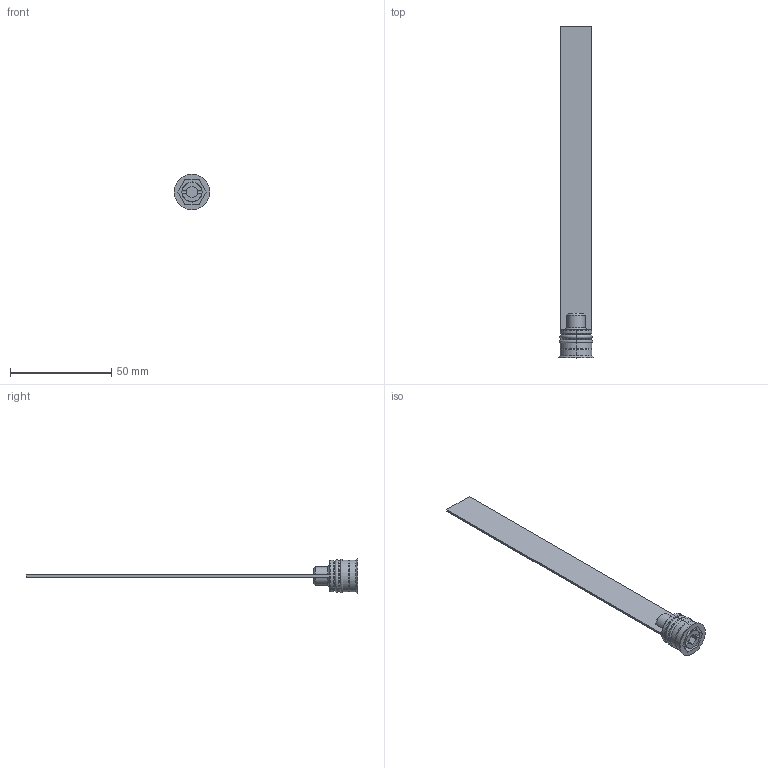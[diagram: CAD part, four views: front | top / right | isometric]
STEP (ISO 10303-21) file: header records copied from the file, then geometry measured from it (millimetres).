
FILE_DESCRIPTION (( 'STEP AP203' ), '1' );
FILE_NAME ('RL-16Fx150.STEP', '2015-12-02T10:53:49', ( 'Balzi' ), ( '' ), 'SwSTEP 2.0', 'SolidWorks 2015', '' );
FILE_SCHEMA (( 'CONFIG_CONTROL_DESIGN' ));
Length unit declared in the file: millimetre
Products named in the file (1): RL-16Fx150
Bounding box: 17.5 x 164 x 17.5 mm (x, y, z)
Volume: 5298.3 mm3; surface area: 6817.6 mm2
Topology: 1 solids, 1 shells, 75 faces, 177 edges, 109 vertices
Faces by surface type: plane 31, cone 19, cylinder 17, torus 8
Entity records: 2245 total; most frequent: CARTESIAN_POINT 412, DIRECTION 386, ORIENTED_EDGE 354, EDGE_CURVE 177, AXIS2_PLACEMENT_3D 147, VERTEX_POINT 109, LINE 92, VECTOR 92
